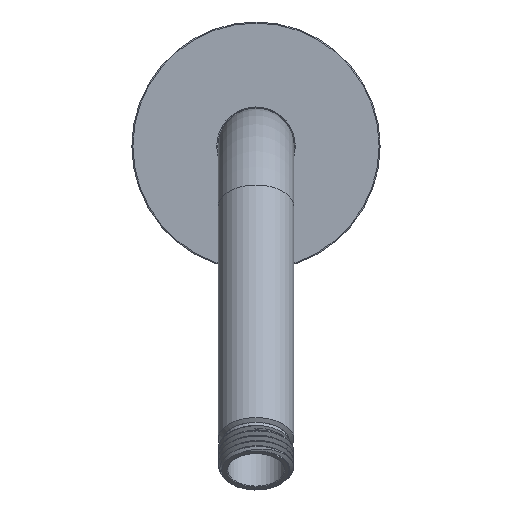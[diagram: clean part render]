
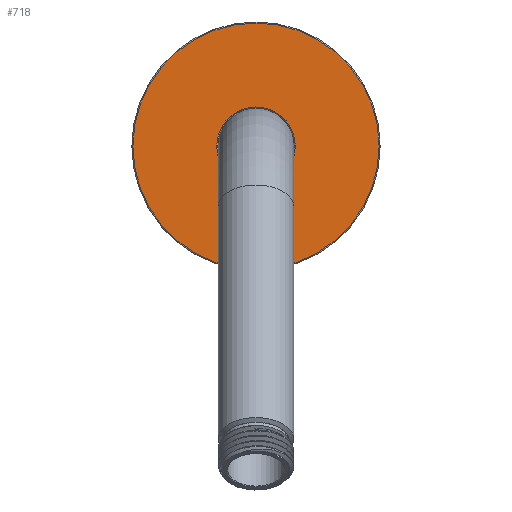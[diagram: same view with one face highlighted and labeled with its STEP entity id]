
A CAD part, front view. The second image highlights one B-rep face of the part: STEP entity #718.
In plain terms, the highlighted planar face has unit normal (0, -1, 0) as drawn and (-1, 0, 0) by its records, which use the part's own axes.
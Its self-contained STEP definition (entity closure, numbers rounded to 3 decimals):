
#91=CIRCLE('',#806,11.05);
#103=CIRCLE('',#828,34.7);
#113=PLANE('',#827);
#288=ORIENTED_EDGE('',*,*,#383,.T.);
#289=ORIENTED_EDGE('',*,*,#367,.T.);
#367=EDGE_CURVE('',#436,#436,#91,.T.);
#383=EDGE_CURVE('',#449,#449,#103,.F.);
#436=VERTEX_POINT('',#4512);
#449=VERTEX_POINT('',#4557);
#573=EDGE_LOOP('',(#288));
#574=EDGE_LOOP('',(#289));
#649=FACE_BOUND('',#573,.T.);
#650=FACE_BOUND('',#574,.T.);
#718=ADVANCED_FACE('',(#649,#650),#113,.F.);
#806=AXIS2_PLACEMENT_3D('',#4511,#930,#931);
#827=AXIS2_PLACEMENT_3D('',#4555,#974,#975);
#828=AXIS2_PLACEMENT_3D('',#4556,#976,#977);
#930=DIRECTION('',(1.,0.,0.));
#931=DIRECTION('',(0.,0.,-1.));
#974=DIRECTION('',(1.,0.,0.));
#975=DIRECTION('',(0.,0.,-1.));
#976=DIRECTION('',(1.,0.,0.));
#977=DIRECTION('',(0.,0.,-1.));
#4511=CARTESIAN_POINT('',(0.,0.,0.));
#4512=CARTESIAN_POINT('',(0.,0.,-11.05));
#4555=CARTESIAN_POINT('',(0.,0.,0.));
#4556=CARTESIAN_POINT('',(0.,0.,0.));
#4557=CARTESIAN_POINT('',(0.,0.,-34.7));
